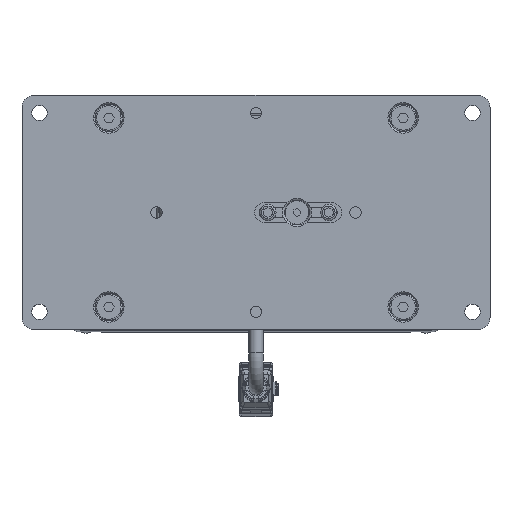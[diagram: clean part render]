
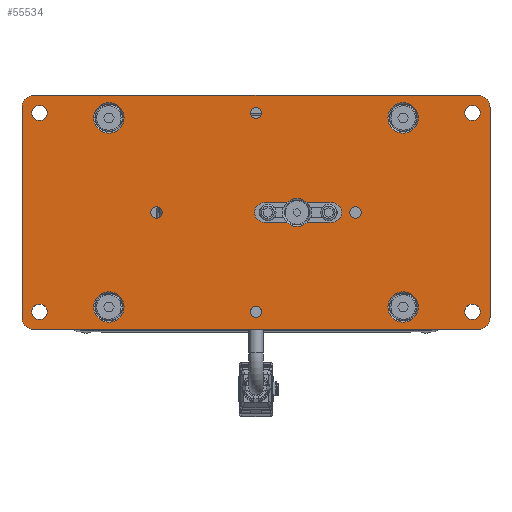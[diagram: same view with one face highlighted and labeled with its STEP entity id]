
A CAD part, top view. The second image highlights one B-rep face of the part: STEP entity #55534.
In plain terms, the highlighted planar face has unit normal (0, 0, 1).
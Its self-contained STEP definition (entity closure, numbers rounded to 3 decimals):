
#2974=LINE('',#78327,#6306);
#2975=LINE('',#78331,#6307);
#2976=LINE('',#78335,#6308);
#2977=LINE('',#78339,#6309);
#2978=LINE('',#78340,#6310);
#2979=LINE('',#78345,#6311);
#2980=LINE('',#78349,#6312);
#2981=LINE('',#78350,#6313);
#6306=VECTOR('',#64448,1000.);
#6307=VECTOR('',#64451,1000.);
#6308=VECTOR('',#64454,1000.);
#6309=VECTOR('',#64457,1000.);
#6310=VECTOR('',#64458,1000.);
#6311=VECTOR('',#64461,1000.);
#6312=VECTOR('',#64464,1000.);
#6313=VECTOR('',#64465,1000.);
#10054=ORIENTED_EDGE('',*,*,#23080,.F.);
#10055=ORIENTED_EDGE('',*,*,#23081,.F.);
#10056=ORIENTED_EDGE('',*,*,#23082,.F.);
#10057=ORIENTED_EDGE('',*,*,#23083,.F.);
#10058=ORIENTED_EDGE('',*,*,#23084,.T.);
#10059=ORIENTED_EDGE('',*,*,#23085,.T.);
#10060=ORIENTED_EDGE('',*,*,#23086,.T.);
#10061=ORIENTED_EDGE('',*,*,#23087,.T.);
#10062=ORIENTED_EDGE('',*,*,#23088,.F.);
#10063=ORIENTED_EDGE('',*,*,#23089,.F.);
#10064=ORIENTED_EDGE('',*,*,#23090,.F.);
#10065=ORIENTED_EDGE('',*,*,#23091,.F.);
#10066=ORIENTED_EDGE('',*,*,#23092,.T.);
#10067=ORIENTED_EDGE('',*,*,#23093,.T.);
#10068=ORIENTED_EDGE('',*,*,#23094,.T.);
#10069=ORIENTED_EDGE('',*,*,#23095,.T.);
#10070=ORIENTED_EDGE('',*,*,#23096,.T.);
#10071=ORIENTED_EDGE('',*,*,#23097,.T.);
#10072=ORIENTED_EDGE('',*,*,#23098,.T.);
#10073=ORIENTED_EDGE('',*,*,#23099,.T.);
#10074=ORIENTED_EDGE('',*,*,#23100,.F.);
#10075=ORIENTED_EDGE('',*,*,#23101,.T.);
#10076=ORIENTED_EDGE('',*,*,#23102,.F.);
#10077=ORIENTED_EDGE('',*,*,#23103,.T.);
#10078=ORIENTED_EDGE('',*,*,#23104,.T.);
#10079=ORIENTED_EDGE('',*,*,#23073,.T.);
#10080=ORIENTED_EDGE('',*,*,#23105,.T.);
#10081=ORIENTED_EDGE('',*,*,#23106,.T.);
#23073=EDGE_CURVE('',#29647,#29645,#33997,.T.);
#23080=EDGE_CURVE('',#29653,#29653,#34001,.T.);
#23081=EDGE_CURVE('',#29654,#29654,#34002,.T.);
#23082=EDGE_CURVE('',#29655,#29655,#34003,.T.);
#23083=EDGE_CURVE('',#29656,#29656,#34004,.T.);
#23084=EDGE_CURVE('',#29657,#29657,#34005,.T.);
#23085=EDGE_CURVE('',#29658,#29658,#34006,.T.);
#23086=EDGE_CURVE('',#29659,#29659,#34007,.T.);
#23087=EDGE_CURVE('',#29660,#29660,#34008,.T.);
#23088=EDGE_CURVE('',#29661,#29661,#34009,.T.);
#23089=EDGE_CURVE('',#29662,#29662,#34010,.T.);
#23090=EDGE_CURVE('',#29663,#29663,#34011,.T.);
#23091=EDGE_CURVE('',#29664,#29664,#34012,.T.);
#23092=EDGE_CURVE('',#29665,#29666,#34013,.T.);
#23093=EDGE_CURVE('',#29666,#29667,#2974,.T.);
#23094=EDGE_CURVE('',#29667,#29668,#34014,.T.);
#23095=EDGE_CURVE('',#29668,#29669,#2975,.T.);
#23096=EDGE_CURVE('',#29669,#29670,#34015,.T.);
#23097=EDGE_CURVE('',#29670,#29671,#2976,.T.);
#23098=EDGE_CURVE('',#29671,#29672,#34016,.T.);
#23099=EDGE_CURVE('',#29672,#29665,#2977,.T.);
#23100=EDGE_CURVE('',#29673,#29674,#2978,.T.);
#23101=EDGE_CURVE('',#29673,#29675,#34017,.T.);
#23102=EDGE_CURVE('',#29676,#29675,#2979,.T.);
#23103=EDGE_CURVE('',#29676,#29677,#34018,.T.);
#23104=EDGE_CURVE('',#29677,#29647,#2980,.T.);
#23105=EDGE_CURVE('',#29645,#29678,#2981,.T.);
#23106=EDGE_CURVE('',#29678,#29674,#34019,.T.);
#29645=VERTEX_POINT('',#78284);
#29647=VERTEX_POINT('',#78287);
#29653=VERTEX_POINT('',#78301);
#29654=VERTEX_POINT('',#78303);
#29655=VERTEX_POINT('',#78305);
#29656=VERTEX_POINT('',#78307);
#29657=VERTEX_POINT('',#78309);
#29658=VERTEX_POINT('',#78311);
#29659=VERTEX_POINT('',#78313);
#29660=VERTEX_POINT('',#78315);
#29661=VERTEX_POINT('',#78317);
#29662=VERTEX_POINT('',#78319);
#29663=VERTEX_POINT('',#78321);
#29664=VERTEX_POINT('',#78323);
#29665=VERTEX_POINT('',#78325);
#29666=VERTEX_POINT('',#78326);
#29667=VERTEX_POINT('',#78328);
#29668=VERTEX_POINT('',#78330);
#29669=VERTEX_POINT('',#78332);
#29670=VERTEX_POINT('',#78334);
#29671=VERTEX_POINT('',#78336);
#29672=VERTEX_POINT('',#78338);
#29673=VERTEX_POINT('',#78341);
#29674=VERTEX_POINT('',#78342);
#29675=VERTEX_POINT('',#78344);
#29676=VERTEX_POINT('',#78346);
#29677=VERTEX_POINT('',#78348);
#29678=VERTEX_POINT('',#78351);
#33997=CIRCLE('',#58698,6.);
#34001=CIRCLE('',#58703,2.459);
#34002=CIRCLE('',#58704,2.459);
#34003=CIRCLE('',#58705,2.459);
#34004=CIRCLE('',#58706,2.459);
#34005=CIRCLE('',#58707,6.5);
#34006=CIRCLE('',#58708,6.5);
#34007=CIRCLE('',#58709,6.5);
#34008=CIRCLE('',#58710,6.5);
#34009=CIRCLE('',#58711,3.3);
#34010=CIRCLE('',#58712,3.3);
#34011=CIRCLE('',#58713,3.3);
#34012=CIRCLE('',#58714,3.3);
#34013=CIRCLE('',#58715,5.);
#34014=CIRCLE('',#58716,5.);
#34015=CIRCLE('',#58717,5.);
#34016=CIRCLE('',#58718,5.);
#34017=CIRCLE('',#58719,6.);
#34018=CIRCLE('',#58720,4.15);
#34019=CIRCLE('',#58721,4.15);
#36544=EDGE_LOOP('',(#10054));
#36545=EDGE_LOOP('',(#10055));
#36546=EDGE_LOOP('',(#10056));
#36547=EDGE_LOOP('',(#10057));
#36548=EDGE_LOOP('',(#10058));
#36549=EDGE_LOOP('',(#10059));
#36550=EDGE_LOOP('',(#10060));
#36551=EDGE_LOOP('',(#10061));
#36552=EDGE_LOOP('',(#10062));
#36553=EDGE_LOOP('',(#10063));
#36554=EDGE_LOOP('',(#10064));
#36555=EDGE_LOOP('',(#10065));
#36556=EDGE_LOOP('',(#10066,#10067,#10068,#10069,#10070,#10071,#10072,#10073));
#36557=EDGE_LOOP('',(#10074,#10075,#10076,#10077,#10078,#10079,#10080,#10081));
#40064=FACE_BOUND('',#36544,.T.);
#40065=FACE_BOUND('',#36545,.T.);
#40066=FACE_BOUND('',#36546,.T.);
#40067=FACE_BOUND('',#36547,.T.);
#40068=FACE_BOUND('',#36548,.T.);
#40069=FACE_BOUND('',#36549,.T.);
#40070=FACE_BOUND('',#36550,.T.);
#40071=FACE_BOUND('',#36551,.T.);
#40072=FACE_BOUND('',#36552,.T.);
#40073=FACE_BOUND('',#36553,.T.);
#40074=FACE_BOUND('',#36554,.T.);
#40075=FACE_BOUND('',#36555,.T.);
#40076=FACE_BOUND('',#36556,.T.);
#40077=FACE_BOUND('',#36557,.T.);
#43515=PLANE('',#58702);
#55534=ADVANCED_FACE('',(#40064,#40065,#40066,#40067,#40068,#40069,#40070,
#40071,#40072,#40073,#40074,#40075,#40076,#40077),#43515,.T.);
#58698=AXIS2_PLACEMENT_3D('',#78286,#64409,#64410);
#58702=AXIS2_PLACEMENT_3D('',#78299,#64420,#64421);
#58703=AXIS2_PLACEMENT_3D('',#78300,#64422,#64423);
#58704=AXIS2_PLACEMENT_3D('',#78302,#64424,#64425);
#58705=AXIS2_PLACEMENT_3D('',#78304,#64426,#64427);
#58706=AXIS2_PLACEMENT_3D('',#78306,#64428,#64429);
#58707=AXIS2_PLACEMENT_3D('',#78308,#64430,#64431);
#58708=AXIS2_PLACEMENT_3D('',#78310,#64432,#64433);
#58709=AXIS2_PLACEMENT_3D('',#78312,#64434,#64435);
#58710=AXIS2_PLACEMENT_3D('',#78314,#64436,#64437);
#58711=AXIS2_PLACEMENT_3D('',#78316,#64438,#64439);
#58712=AXIS2_PLACEMENT_3D('',#78318,#64440,#64441);
#58713=AXIS2_PLACEMENT_3D('',#78320,#64442,#64443);
#58714=AXIS2_PLACEMENT_3D('',#78322,#64444,#64445);
#58715=AXIS2_PLACEMENT_3D('',#78324,#64446,#64447);
#58716=AXIS2_PLACEMENT_3D('',#78329,#64449,#64450);
#58717=AXIS2_PLACEMENT_3D('',#78333,#64452,#64453);
#58718=AXIS2_PLACEMENT_3D('',#78337,#64455,#64456);
#58719=AXIS2_PLACEMENT_3D('',#78343,#64459,#64460);
#58720=AXIS2_PLACEMENT_3D('',#78347,#64462,#64463);
#58721=AXIS2_PLACEMENT_3D('',#78352,#64466,#64467);
#64409=DIRECTION('',(0.,0.,-1.));
#64410=DIRECTION('',(1.,0.,0.));
#64420=DIRECTION('',(0.,0.,1.));
#64421=DIRECTION('',(1.,0.,0.));
#64422=DIRECTION('',(0.,0.,1.));
#64423=DIRECTION('',(1.,0.,0.));
#64424=DIRECTION('',(0.,0.,1.));
#64425=DIRECTION('',(1.,0.,0.));
#64426=DIRECTION('',(0.,0.,1.));
#64427=DIRECTION('',(1.,0.,0.));
#64428=DIRECTION('',(0.,0.,1.));
#64429=DIRECTION('',(1.,0.,0.));
#64430=DIRECTION('',(0.,0.,-1.));
#64431=DIRECTION('',(1.,0.,0.));
#64432=DIRECTION('',(0.,0.,-1.));
#64433=DIRECTION('',(1.,0.,0.));
#64434=DIRECTION('',(0.,0.,-1.));
#64435=DIRECTION('',(1.,0.,0.));
#64436=DIRECTION('',(0.,0.,-1.));
#64437=DIRECTION('',(1.,0.,0.));
#64438=DIRECTION('',(0.,0.,1.));
#64439=DIRECTION('',(1.,0.,0.));
#64440=DIRECTION('',(0.,0.,1.));
#64441=DIRECTION('',(1.,0.,0.));
#64442=DIRECTION('',(0.,0.,1.));
#64443=DIRECTION('',(1.,0.,0.));
#64444=DIRECTION('',(0.,0.,1.));
#64445=DIRECTION('',(1.,0.,0.));
#64446=DIRECTION('',(0.,0.,1.));
#64447=DIRECTION('',(1.,0.,0.));
#64448=DIRECTION('',(1.,0.,0.));
#64449=DIRECTION('',(0.,0.,1.));
#64450=DIRECTION('',(-1.,0.,0.));
#64451=DIRECTION('',(0.,1.,0.));
#64452=DIRECTION('',(0.,0.,1.));
#64453=DIRECTION('',(1.,0.,0.));
#64454=DIRECTION('',(-1.,0.,0.));
#64455=DIRECTION('',(0.,0.,1.));
#64456=DIRECTION('',(1.,0.,0.));
#64457=DIRECTION('',(0.,-1.,0.));
#64458=DIRECTION('',(1.,0.,0.));
#64459=DIRECTION('',(0.,0.,-1.));
#64460=DIRECTION('',(1.,0.,0.));
#64461=DIRECTION('',(1.,0.,0.));
#64462=DIRECTION('',(0.,0.,-1.));
#64463=DIRECTION('',(0.,-1.,0.));
#64464=DIRECTION('',(1.,0.,0.));
#64465=DIRECTION('',(1.,0.,0.));
#64466=DIRECTION('',(0.,0.,-1.));
#64467=DIRECTION('',(0.,1.,0.));
#78284=CARTESIAN_POINT('',(21.833,4.15,8.));
#78286=CARTESIAN_POINT('',(17.5,0.,8.));
#78287=CARTESIAN_POINT('',(13.167,4.15,8.));
#78299=CARTESIAN_POINT('',(-95.,-45.,8.));
#78300=CARTESIAN_POINT('',(0.,-42.5,8.));
#78301=CARTESIAN_POINT('',(2.459,-42.5,8.));
#78302=CARTESIAN_POINT('',(42.5,0.,8.));
#78303=CARTESIAN_POINT('',(44.959,0.,8.));
#78304=CARTESIAN_POINT('',(0.,42.5,8.));
#78305=CARTESIAN_POINT('',(2.459,42.5,8.));
#78306=CARTESIAN_POINT('',(-42.5,0.,8.));
#78307=CARTESIAN_POINT('',(-40.042,0.,8.));
#78308=CARTESIAN_POINT('',(-62.9,-40.4,8.));
#78309=CARTESIAN_POINT('',(-56.4,-40.4,8.));
#78310=CARTESIAN_POINT('',(62.9,-40.4,8.));
#78311=CARTESIAN_POINT('',(69.4,-40.4,8.));
#78312=CARTESIAN_POINT('',(62.9,40.4,8.));
#78313=CARTESIAN_POINT('',(69.4,40.4,8.));
#78314=CARTESIAN_POINT('',(-62.9,40.4,8.));
#78315=CARTESIAN_POINT('',(-56.4,40.4,8.));
#78316=CARTESIAN_POINT('',(-92.5,-42.5,8.));
#78317=CARTESIAN_POINT('',(-89.2,-42.5,8.));
#78318=CARTESIAN_POINT('',(92.5,-42.5,8.));
#78319=CARTESIAN_POINT('',(95.8,-42.5,8.));
#78320=CARTESIAN_POINT('',(92.5,42.5,8.));
#78321=CARTESIAN_POINT('',(95.8,42.5,8.));
#78322=CARTESIAN_POINT('',(-92.5,42.5,8.));
#78323=CARTESIAN_POINT('',(-89.2,42.5,8.));
#78324=CARTESIAN_POINT('',(-95.,-45.,8.));
#78325=CARTESIAN_POINT('',(-100.,-45.,8.));
#78326=CARTESIAN_POINT('',(-95.,-50.,8.));
#78327=CARTESIAN_POINT('',(-95.,-50.,8.));
#78328=CARTESIAN_POINT('',(95.,-50.,8.));
#78329=CARTESIAN_POINT('',(95.,-45.,8.));
#78330=CARTESIAN_POINT('',(100.,-45.,8.));
#78331=CARTESIAN_POINT('',(100.,-45.,8.));
#78332=CARTESIAN_POINT('',(100.,45.,8.));
#78333=CARTESIAN_POINT('',(95.,45.,8.));
#78334=CARTESIAN_POINT('',(95.,50.,8.));
#78335=CARTESIAN_POINT('',(95.,50.,8.));
#78336=CARTESIAN_POINT('',(-95.,50.,8.));
#78337=CARTESIAN_POINT('',(-95.,45.,8.));
#78338=CARTESIAN_POINT('',(-100.,45.,8.));
#78339=CARTESIAN_POINT('',(-100.,45.,8.));
#78340=CARTESIAN_POINT('',(3.5,-4.15,8.));
#78341=CARTESIAN_POINT('',(21.833,-4.15,8.));
#78342=CARTESIAN_POINT('',(32.5,-4.15,8.));
#78343=CARTESIAN_POINT('',(17.5,0.,8.));
#78344=CARTESIAN_POINT('',(13.167,-4.15,8.));
#78345=CARTESIAN_POINT('',(3.5,-4.15,8.));
#78346=CARTESIAN_POINT('',(3.5,-4.15,8.));
#78347=CARTESIAN_POINT('',(3.5,0.,8.));
#78348=CARTESIAN_POINT('',(3.5,4.15,8.));
#78349=CARTESIAN_POINT('',(3.5,4.15,8.));
#78350=CARTESIAN_POINT('',(3.5,4.15,8.));
#78351=CARTESIAN_POINT('',(32.5,4.15,8.));
#78352=CARTESIAN_POINT('',(32.5,0.,8.));
